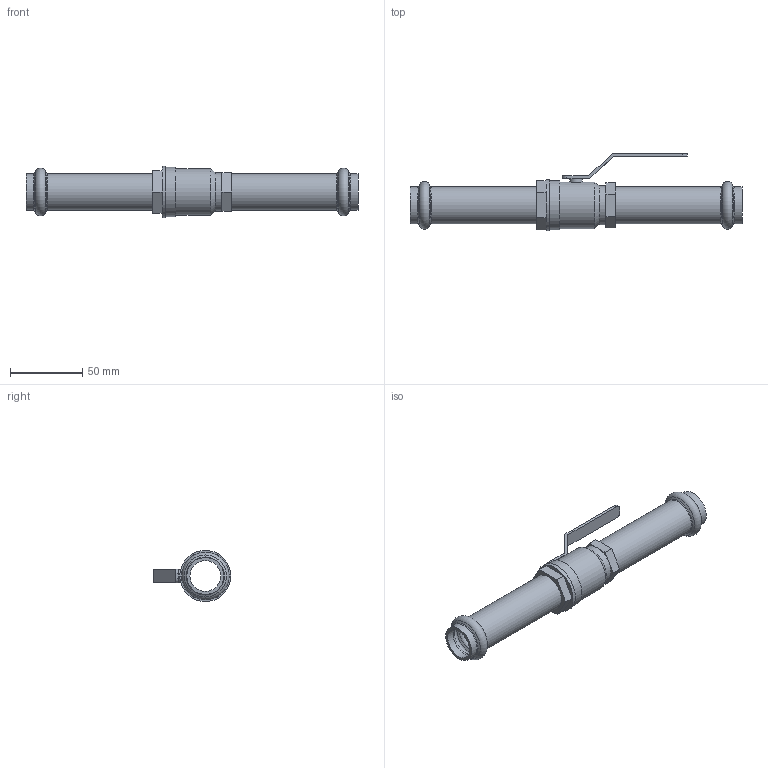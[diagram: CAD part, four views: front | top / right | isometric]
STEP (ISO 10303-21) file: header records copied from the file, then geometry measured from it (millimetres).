
FILE_DESCRIPTION(/* description */ ('VIC-PRESS 304 BRASS BODY BALL VALVE SERIES P589 (P X P)','CAx-IF Rec.Pracs.---Representation and Presentation of Product Manufacturing Information (PMI)---4.0---2014-10-13'),/* implementation_level */ '2;1');
FILE_NAME(/* name */ 'C:\Users\Vjadhav\AppData\Roaming\Autodesk\ApplicationPlugins\Back Up\Victaulic_SS-Vic-Press-TP 304_Valve Ball Brass Body_Series P589 (VP)\Victaulic_SS-Vic-Press-TP 304_Valve Ball Brass Body_Series P589 (VP)_0.5 (15).stp',/* time_stamp */ '2020-08-12T19:25:21+06:00',/* author */ ('cps_temp'),/* organization */ ('Victaulic'),/* preprocessor_version */ 'ST-DEVELOPER v17.2',/* originating_system */ 'Autodesk Inventor 2019',/* authorisation */ '');
FILE_SCHEMA (('AP242_MANAGED_MODEL_BASED_3D_ENGINEERING_MIM_LF { 1 0 10303 442 1 1 4 }'));
Length unit declared in the file: inch
Products named in the file (1): P589-0.5
Bounding box: 229.36 x 53.71 x 35.29 mm (x, y, z)
Volume: 53327.7 mm3; surface area: 39680.2 mm2
Topology: 1 solids, 1 shells, 72 faces, 219 edges, 156 vertices
Faces by surface type: plane 35, cylinder 16, torus 12, cone 9
Full cylindrical faces by diameter (mm): 8.763 x1, 21.336 x3, 25.552 x4, 26.924 x1, 32.142 x1, 34.022 x1, 35.292 x1
Entity records: 2825 total; most frequent: DIRECTION 515, CARTESIAN_POINT 499, ORIENTED_EDGE 438, EDGE_CURVE 219, AXIS2_PLACEMENT_3D 212, VERTEX_POINT 156, CIRCLE 126, LINE 91
